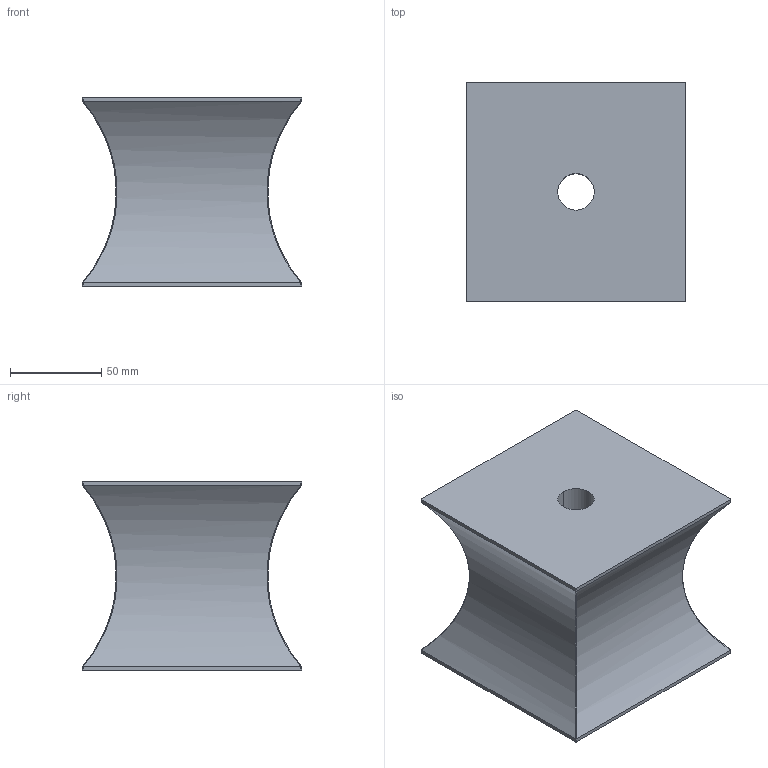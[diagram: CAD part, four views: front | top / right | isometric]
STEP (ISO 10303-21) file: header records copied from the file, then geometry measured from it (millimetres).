
FILE_DESCRIPTION(/* description */ (''),/* implementation_level */ '2;1');
FILE_NAME(/* name */ '3d_qx120-103_06525_r00.stp',/* time_stamp */ '2011-01-10T14:11:40+09:00',/* author */ ('MISUMI'),/* organization */ (''),/* preprocessor_version */ 'ST-DEVELOPER v11',/* originating_system */ 'UGS - NX 5.0',/* authorisation */ '');
FILE_SCHEMA (('CONFIG_CONTROL_DESIGN'));
Length unit declared in the file: millimetre
Products named in the file (1): 3d_qx120-103_06525_r00
Bounding box: 120 x 120 x 103 mm (x, y, z)
Volume: 923787 mm3; surface area: 77756.8 mm2
Topology: 1 solids, 1 shells, 28 faces, 78 edges, 52 vertices
Faces by surface type: cylinder 14, plane 10, bspline 4
Entity records: 4928 total; most frequent: CARTESIAN_POINT 4179, ORIENTED_EDGE 156, DIRECTION 108, EDGE_CURVE 78, VERTEX_POINT 52, AXIS2_PLACEMENT_3D 37, LINE 34, VECTOR 34
